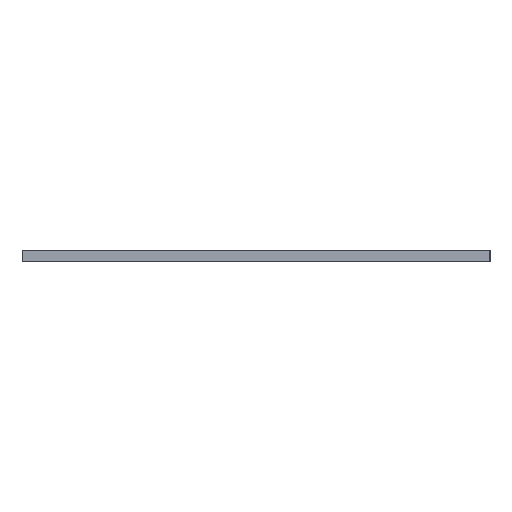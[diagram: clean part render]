
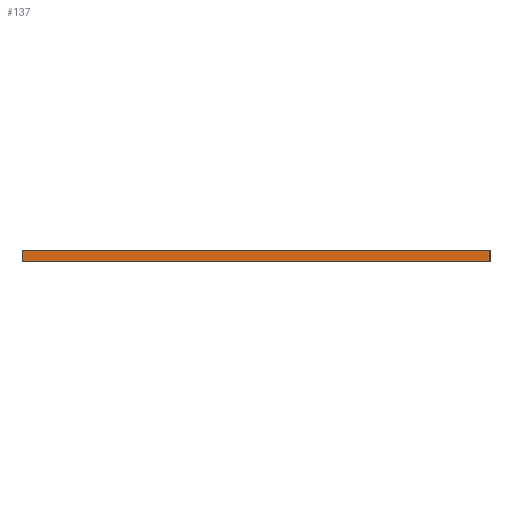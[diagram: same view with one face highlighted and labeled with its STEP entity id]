
A CAD part, left-side view. The second image highlights one B-rep face of the part: STEP entity #137.
In plain terms, the highlighted planar face has unit normal (-1, 0, 0).
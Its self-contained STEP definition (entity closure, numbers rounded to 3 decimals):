
#21 = EDGE_CURVE('',#22,#24,#26,.T.);
#22 = VERTEX_POINT('',#23);
#23 = CARTESIAN_POINT('',(-75.,-50.,0.));
#24 = VERTEX_POINT('',#25);
#25 = CARTESIAN_POINT('',(-75.,-50.,2.5));
#26 = SURFACE_CURVE('',#27,(#31,#43),.PCURVE_S1.);
#27 = LINE('',#28,#29);
#28 = CARTESIAN_POINT('',(-75.,-50.,0.));
#29 = VECTOR('',#30,1.);
#30 = DIRECTION('',(0.,0.,1.));
#31 = PCURVE('',#32,#37);
#32 = PLANE('',#33);
#33 = AXIS2_PLACEMENT_3D('',#34,#35,#36);
#34 = CARTESIAN_POINT('',(-75.,-50.,0.));
#35 = DIRECTION('',(0.,1.,0.));
#36 = DIRECTION('',(1.,0.,0.));
#37 = DEFINITIONAL_REPRESENTATION('',(#38),#42);
#38 = LINE('',#39,#40);
#39 = CARTESIAN_POINT('',(0.,0.));
#40 = VECTOR('',#41,1.);
#41 = DIRECTION('',(0.,-1.));
#42 = ( GEOMETRIC_REPRESENTATION_CONTEXT(2) 
PARAMETRIC_REPRESENTATION_CONTEXT() REPRESENTATION_CONTEXT('2D SPACE',''
  ) );
#43 = PCURVE('',#44,#49);
#44 = PLANE('',#45);
#45 = AXIS2_PLACEMENT_3D('',#46,#47,#48);
#46 = CARTESIAN_POINT('',(-75.,50.,0.));
#47 = DIRECTION('',(1.,0.,-0.));
#48 = DIRECTION('',(0.,-1.,0.));
#49 = DEFINITIONAL_REPRESENTATION('',(#50),#54);
#50 = LINE('',#51,#52);
#51 = CARTESIAN_POINT('',(100.,0.));
#52 = VECTOR('',#53,1.);
#53 = DIRECTION('',(0.,-1.));
#54 = ( GEOMETRIC_REPRESENTATION_CONTEXT(2) 
PARAMETRIC_REPRESENTATION_CONTEXT() REPRESENTATION_CONTEXT('2D SPACE',''
  ) );
#72 = PLANE('',#73);
#73 = AXIS2_PLACEMENT_3D('',#74,#75,#76);
#74 = CARTESIAN_POINT('',(0.,0.,2.5));
#75 = DIRECTION('',(0.,0.,1.));
#76 = DIRECTION('',(1.,0.,-0.));
#126 = PLANE('',#127);
#127 = AXIS2_PLACEMENT_3D('',#128,#129,#130);
#128 = CARTESIAN_POINT('',(0.,0.,0.));
#129 = DIRECTION('',(0.,0.,1.));
#130 = DIRECTION('',(1.,0.,-0.));
#137 = ADVANCED_FACE('',(#138),#44,.F.);
#138 = FACE_BOUND('',#139,.F.);
#139 = EDGE_LOOP('',(#140,#170,#191,#192));
#140 = ORIENTED_EDGE('',*,*,#141,.T.);
#141 = EDGE_CURVE('',#142,#144,#146,.T.);
#142 = VERTEX_POINT('',#143);
#143 = CARTESIAN_POINT('',(-75.,50.,0.));
#144 = VERTEX_POINT('',#145);
#145 = CARTESIAN_POINT('',(-75.,50.,2.5));
#146 = SURFACE_CURVE('',#147,(#151,#158),.PCURVE_S1.);
#147 = LINE('',#148,#149);
#148 = CARTESIAN_POINT('',(-75.,50.,0.));
#149 = VECTOR('',#150,1.);
#150 = DIRECTION('',(0.,0.,1.));
#151 = PCURVE('',#44,#152);
#152 = DEFINITIONAL_REPRESENTATION('',(#153),#157);
#153 = LINE('',#154,#155);
#154 = CARTESIAN_POINT('',(0.,0.));
#155 = VECTOR('',#156,1.);
#156 = DIRECTION('',(0.,-1.));
#157 = ( GEOMETRIC_REPRESENTATION_CONTEXT(2) 
PARAMETRIC_REPRESENTATION_CONTEXT() REPRESENTATION_CONTEXT('2D SPACE',''
  ) );
#158 = PCURVE('',#159,#164);
#159 = PLANE('',#160);
#160 = AXIS2_PLACEMENT_3D('',#161,#162,#163);
#161 = CARTESIAN_POINT('',(75.,50.,0.));
#162 = DIRECTION('',(0.,-1.,0.));
#163 = DIRECTION('',(-1.,0.,0.));
#164 = DEFINITIONAL_REPRESENTATION('',(#165),#169);
#165 = LINE('',#166,#167);
#166 = CARTESIAN_POINT('',(150.,0.));
#167 = VECTOR('',#168,1.);
#168 = DIRECTION('',(0.,-1.));
#169 = ( GEOMETRIC_REPRESENTATION_CONTEXT(2) 
PARAMETRIC_REPRESENTATION_CONTEXT() REPRESENTATION_CONTEXT('2D SPACE',''
  ) );
#170 = ORIENTED_EDGE('',*,*,#171,.T.);
#171 = EDGE_CURVE('',#144,#24,#172,.T.);
#172 = SURFACE_CURVE('',#173,(#177,#184),.PCURVE_S1.);
#173 = LINE('',#174,#175);
#174 = CARTESIAN_POINT('',(-75.,50.,2.5));
#175 = VECTOR('',#176,1.);
#176 = DIRECTION('',(0.,-1.,0.));
#177 = PCURVE('',#44,#178);
#178 = DEFINITIONAL_REPRESENTATION('',(#179),#183);
#179 = LINE('',#180,#181);
#180 = CARTESIAN_POINT('',(0.,-2.5));
#181 = VECTOR('',#182,1.);
#182 = DIRECTION('',(1.,0.));
#183 = ( GEOMETRIC_REPRESENTATION_CONTEXT(2) 
PARAMETRIC_REPRESENTATION_CONTEXT() REPRESENTATION_CONTEXT('2D SPACE',''
  ) );
#184 = PCURVE('',#72,#185);
#185 = DEFINITIONAL_REPRESENTATION('',(#186),#190);
#186 = LINE('',#187,#188);
#187 = CARTESIAN_POINT('',(-75.,50.));
#188 = VECTOR('',#189,1.);
#189 = DIRECTION('',(0.,-1.));
#190 = ( GEOMETRIC_REPRESENTATION_CONTEXT(2) 
PARAMETRIC_REPRESENTATION_CONTEXT() REPRESENTATION_CONTEXT('2D SPACE',''
  ) );
#191 = ORIENTED_EDGE('',*,*,#21,.F.);
#192 = ORIENTED_EDGE('',*,*,#193,.F.);
#193 = EDGE_CURVE('',#142,#22,#194,.T.);
#194 = SURFACE_CURVE('',#195,(#199,#206),.PCURVE_S1.);
#195 = LINE('',#196,#197);
#196 = CARTESIAN_POINT('',(-75.,50.,0.));
#197 = VECTOR('',#198,1.);
#198 = DIRECTION('',(0.,-1.,0.));
#199 = PCURVE('',#44,#200);
#200 = DEFINITIONAL_REPRESENTATION('',(#201),#205);
#201 = LINE('',#202,#203);
#202 = CARTESIAN_POINT('',(0.,0.));
#203 = VECTOR('',#204,1.);
#204 = DIRECTION('',(1.,0.));
#205 = ( GEOMETRIC_REPRESENTATION_CONTEXT(2) 
PARAMETRIC_REPRESENTATION_CONTEXT() REPRESENTATION_CONTEXT('2D SPACE',''
  ) );
#206 = PCURVE('',#126,#207);
#207 = DEFINITIONAL_REPRESENTATION('',(#208),#212);
#208 = LINE('',#209,#210);
#209 = CARTESIAN_POINT('',(-75.,50.));
#210 = VECTOR('',#211,1.);
#211 = DIRECTION('',(0.,-1.));
#212 = ( GEOMETRIC_REPRESENTATION_CONTEXT(2) 
PARAMETRIC_REPRESENTATION_CONTEXT() REPRESENTATION_CONTEXT('2D SPACE',''
  ) );
